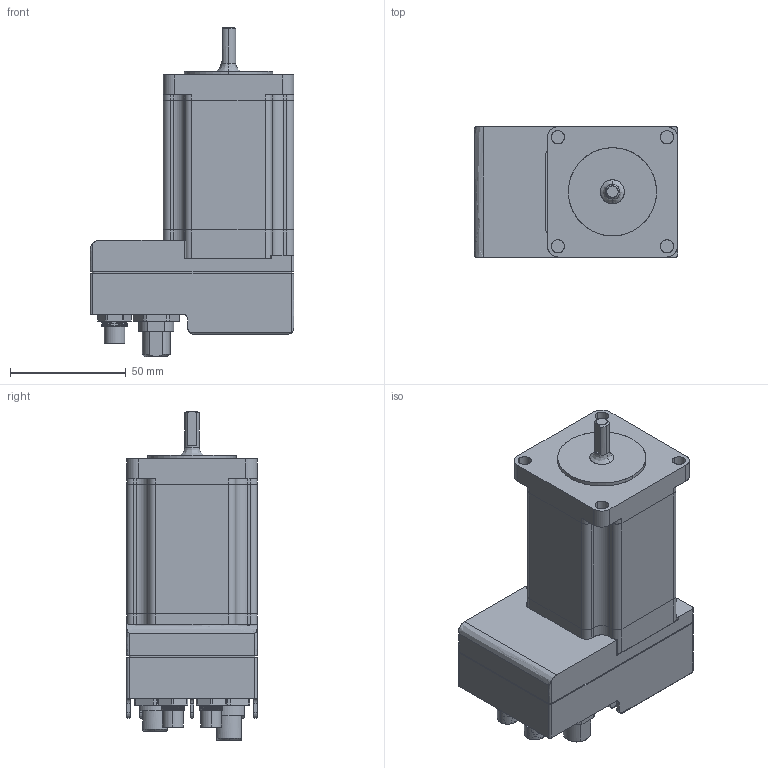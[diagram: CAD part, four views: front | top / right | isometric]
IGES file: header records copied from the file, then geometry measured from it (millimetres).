
Start section: SolidWorks IGES file using analytic representation for surfaces
Global section: file name: C:\Work\Sevotronix\NEMA 23 ECAT 3_11_16\CAD\3d models for customers\IST-23M16EC10.IGS; native system: SolidWorks 2013; preprocessor: SolidWorks 2013; author: owner; date: 180321.123920; units: millimetre
Bounding box: 87.9 x 56.4 x 142.41 mm (x, y, z)
Surface area: 119305.6 mm2 (no closed solid volume)
Topology: 0 solids, 0 shells, 1753 faces, 20913 edges, 20869 vertices
Faces by surface type: revolution 913, bspline 840
